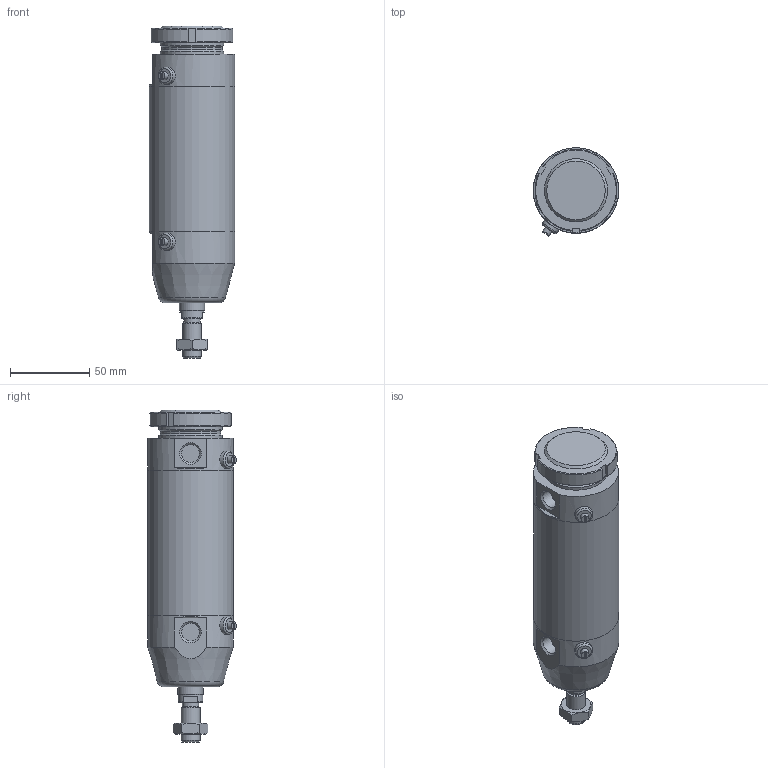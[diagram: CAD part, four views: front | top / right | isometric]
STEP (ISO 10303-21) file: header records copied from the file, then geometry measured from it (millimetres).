
FILE_DESCRIPTION(/* description */ (''),/* implementation_level */ '2;1');
FILE_NAME(/* name */ 'I:\Area Tecnica\Documenti\A-Manieri\_Inventor\12X\12X#B_###_####_#_#\12XBB_050_0050_#_#.stp',/* time_stamp */ '2015-04-28T14:28:29+02:00',/* author */ ('maniean1'),/* organization */ ('Pneumax S.p.A.'),/* preprocessor_version */ 'ST-DEVELOPER v15.2',/* originating_system */ 'Autodesk Inventor 2014',/* authorisation */ '');
FILE_SCHEMA (('AUTOMOTIVE_DESIGN { 1 0 10303 214 3 1 1 }'));
Length unit declared in the file: millimetre
Products named in the file (7): C1250_619-0050; 12X50_614; S12X50_0050; 12X_50_11; 12X50_621; G12X_050_05; 12XBB_050_0050_#_#
Bounding box: 54 x 55.88 x 210 mm (x, y, z)
Volume: 293938 mm3; surface area: 76231.9 mm2
Topology: 6 solids, 6 shells, 98 faces, 217 edges, 140 vertices
Faces by surface type: plane 52, cylinder 24, cone 19, torus 3
Full cylindrical faces by diameter (mm): 5 x2, 10.2 x1, 11 x2, 11.4 x2, 12 x2, 14 x1, 15.6 x1, 16 x1, 38.2 x1, 40 x3, 50 x2, 54 x3
Entity records: 2646 total; most frequent: CARTESIAN_POINT 539, DIRECTION 439, ORIENTED_EDGE 346, AXIS2_PLACEMENT_3D 186, EDGE_CURVE 173, EDGE_LOOP 150, VERTEX_POINT 131, ADVANCED_FACE 98
